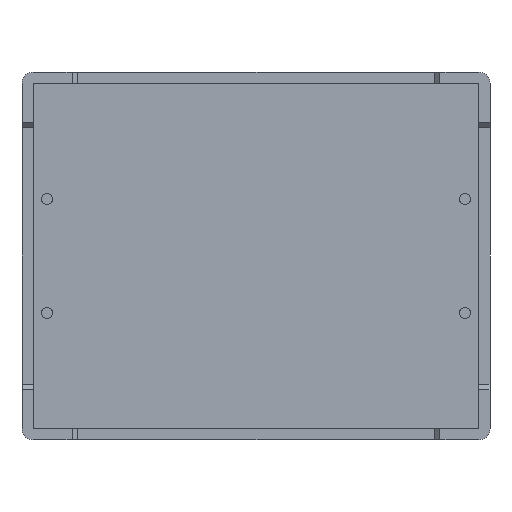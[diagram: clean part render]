
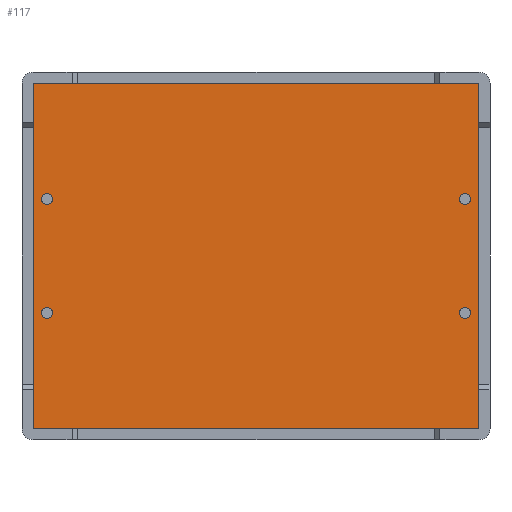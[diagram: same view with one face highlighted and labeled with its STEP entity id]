
A CAD part, front view. The second image highlights one B-rep face of the part: STEP entity #117.
In plain terms, the highlighted planar face has unit normal (0, -1, 0).
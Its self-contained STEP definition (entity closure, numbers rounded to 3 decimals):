
#8 = AXIS2_PLACEMENT_3D ( 'NONE', #4185, #4074, #4048 ) ;
#40 = DIRECTION ( 'NONE',  ( 0., -1., 0. ) ) ;
#55 = EDGE_CURVE ( 'NONE', #2542, #2444, #792, .T. ) ;
#108 = EDGE_CURVE ( 'NONE', #2647, #2434, #479, .T. ) ;
#117 = ADVANCED_FACE ( 'NONE', ( #431, #484, #427, #423, #419 ), #1413, .T. ) ;
#132 = DIRECTION ( 'NONE',  ( 0., -1., 0. ) ) ;
#175 = EDGE_CURVE ( 'NONE', #2857, #2591, #4486, .T. ) ;
#219 = EDGE_CURVE ( 'NONE', #3059, #1966, #3805, .T. ) ;
#249 = EDGE_CURVE ( 'NONE', #3536, #3702, #3254, .T. ) ;
#255 = EDGE_CURVE ( 'NONE', #3768, #3634, #3123, .T. ) ;
#261 = EDGE_CURVE ( 'NONE', #3411, #3037, #2965, .T. ) ;
#277 = EDGE_CURVE ( 'NONE', #3808, #3295, #2730, .T. ) ;
#279 = ORIENTED_EDGE ( 'NONE', *, *, #249, .F. ) ;
#285 = EDGE_CURVE ( 'NONE', #1966, #2857, #2328, .T. ) ;
#290 = EDGE_CURVE ( 'NONE', #2591, #2647, #2237, .T. ) ;
#299 = EDGE_CURVE ( 'NONE', #2434, #2542, #2101, .T. ) ;
#301 = EDGE_CURVE ( 'NONE', #2444, #3059, #2015, .T. ) ;
#332 = ORIENTED_EDGE ( 'NONE', *, *, #3658, .F. ) ;
#339 = ORIENTED_EDGE ( 'NONE', *, *, #255, .F. ) ;
#351 = ORIENTED_EDGE ( 'NONE', *, *, #4470, .F. ) ;
#365 = ORIENTED_EDGE ( 'NONE', *, *, #261, .F. ) ;
#372 = CARTESIAN_POINT ( 'NONE',  ( 18.75, 1., 5.1 ) ) ;
#397 = ORIENTED_EDGE ( 'NONE', *, *, #893, .F. ) ;
#403 = ORIENTED_EDGE ( 'NONE', *, *, #277, .F. ) ;
#416 = ORIENTED_EDGE ( 'NONE', *, *, #1346, .F. ) ;
#419 = FACE_OUTER_BOUND ( 'NONE', #1344, .T. ) ;
#421 = ORIENTED_EDGE ( 'NONE', *, *, #219, .T. ) ;
#423 = FACE_BOUND ( 'NONE', #1879, .T. ) ;
#425 = ORIENTED_EDGE ( 'NONE', *, *, #285, .T. ) ;
#427 = FACE_BOUND ( 'NONE', #1544, .T. ) ;
#431 = FACE_BOUND ( 'NONE', #1495, .T. ) ;
#436 = CARTESIAN_POINT ( 'NONE',  ( -19.9, 1., -15.5 ) ) ;
#451 = DIRECTION ( 'NONE',  ( 0., 0., -1. ) ) ;
#455 = ORIENTED_EDGE ( 'NONE', *, *, #175, .T. ) ;
#465 = ORIENTED_EDGE ( 'NONE', *, *, #290, .T. ) ;
#467 = CARTESIAN_POINT ( 'NONE',  ( 19.9, 1., 15.4 ) ) ;
#468 = CARTESIAN_POINT ( 'NONE',  ( -18.75, 1., 4.6 ) ) ;
#475 = ORIENTED_EDGE ( 'NONE', *, *, #108, .T. ) ;
#477 = DIRECTION ( 'NONE',  ( 0., -1., 0. ) ) ;
#479 = LINE ( 'NONE', #1637, #581 ) ;
#482 = ORIENTED_EDGE ( 'NONE', *, *, #299, .T. ) ;
#484 = FACE_BOUND ( 'NONE', #1755, .T. ) ;
#511 = AXIS2_PLACEMENT_3D ( 'NONE', #467, #40, #1236 ) ;
#515 = ORIENTED_EDGE ( 'NONE', *, *, #55, .T. ) ;
#525 = ORIENTED_EDGE ( 'NONE', *, *, #301, .T. ) ;
#562 = DIRECTION ( 'NONE',  ( 0., 0., -1. ) ) ;
#581 = VECTOR ( 'NONE', #1631, 1000. ) ;
#638 = DIRECTION ( 'NONE',  ( 0., -1., 0. ) ) ;
#792 = LINE ( 'NONE', #2930, #811 ) ;
#811 = VECTOR ( 'NONE', #2889, 1000. ) ;
#867 = DIRECTION ( 'NONE',  ( 0., 0., -1. ) ) ;
#893 = EDGE_CURVE ( 'NONE', #3037, #3411, #4334, .T. ) ;
#937 = DIRECTION ( 'NONE',  ( 0., -1., 0. ) ) ;
#967 = CIRCLE ( 'NONE', #3743, 0.5 ) ;
#1057 = CARTESIAN_POINT ( 'NONE',  ( 19.9, 1., -15.4 ) ) ;
#1071 = AXIS2_PLACEMENT_3D ( 'NONE', #3917, #132, #3546 ) ;
#1217 = CARTESIAN_POINT ( 'NONE',  ( 19.9, 1., -15.5 ) ) ;
#1236 = DIRECTION ( 'NONE',  ( 0., 0., -1. ) ) ;
#1290 = CARTESIAN_POINT ( 'NONE',  ( 18.75, 1., 4.6 ) ) ;
#1344 = EDGE_LOOP ( 'NONE', ( #421, #425, #455, #465, #475, #482, #515, #525 ) ) ;
#1346 = EDGE_CURVE ( 'NONE', #3295, #3808, #1441, .T. ) ;
#1352 = DIRECTION ( 'NONE',  ( 0., 0., -1. ) ) ;
#1365 = DIRECTION ( 'NONE',  ( 0., 0., -1. ) ) ;
#1379 = DIRECTION ( 'NONE',  ( 0., 0., -1. ) ) ;
#1382 = DIRECTION ( 'NONE',  ( 0., -1., 0. ) ) ;
#1386 = DIRECTION ( 'NONE',  ( 0., -1., 0. ) ) ;
#1393 = DIRECTION ( 'NONE',  ( 0., -1., 0. ) ) ;
#1400 = CARTESIAN_POINT ( 'NONE',  ( 0., 1., 0. ) ) ;
#1413 = PLANE ( 'NONE',  #1695 ) ;
#1441 = CIRCLE ( 'NONE', #4111, 0.5 ) ;
#1448 = CARTESIAN_POINT ( 'NONE',  ( -18.75, 1., 5.1 ) ) ;
#1455 = CARTESIAN_POINT ( 'NONE',  ( -19.9, 1., -15.4 ) ) ;
#1495 = EDGE_LOOP ( 'NONE', ( #279, #332 ) ) ;
#1531 = CARTESIAN_POINT ( 'NONE',  ( -20., 1., -15.5 ) ) ;
#1544 = EDGE_LOOP ( 'NONE', ( #365, #397 ) ) ;
#1545 = CIRCLE ( 'NONE', #3086, 0.5 ) ;
#1585 = DIRECTION ( 'NONE',  ( 0., -1., 0. ) ) ;
#1631 = DIRECTION ( 'NONE',  ( 0., 0., 1. ) ) ;
#1637 = CARTESIAN_POINT ( 'NONE',  ( 20., 1., -15.5 ) ) ;
#1649 = CARTESIAN_POINT ( 'NONE',  ( -20., 1., 15.4 ) ) ;
#1684 = CARTESIAN_POINT ( 'NONE',  ( -18.75, 1., -4.6 ) ) ;
#1695 = AXIS2_PLACEMENT_3D ( 'NONE', #1400, #1386, #1379 ) ;
#1755 = EDGE_LOOP ( 'NONE', ( #339, #351 ) ) ;
#1879 = EDGE_LOOP ( 'NONE', ( #403, #416 ) ) ;
#1966 = VERTEX_POINT ( 'NONE', #2837 ) ;
#2015 = CIRCLE ( 'NONE', #1071, 0.1 ) ;
#2101 = CIRCLE ( 'NONE', #511, 0.1 ) ;
#2139 = AXIS2_PLACEMENT_3D ( 'NONE', #2392, #2295, #2224 ) ;
#2224 = DIRECTION ( 'NONE',  ( 0., 0., -1. ) ) ;
#2237 = CIRCLE ( 'NONE', #3861, 0.1 ) ;
#2284 = CARTESIAN_POINT ( 'NONE',  ( 19.9, 1., 15.5 ) ) ;
#2295 = DIRECTION ( 'NONE',  ( 0., -1., 0. ) ) ;
#2304 = CARTESIAN_POINT ( 'NONE',  ( 20., 1., -15.4 ) ) ;
#2328 = CIRCLE ( 'NONE', #3464, 0.1 ) ;
#2392 = CARTESIAN_POINT ( 'NONE',  ( -18.75, 1., -5.1 ) ) ;
#2394 = CARTESIAN_POINT ( 'NONE',  ( 18.75, 1., -4.6 ) ) ;
#2434 = VERTEX_POINT ( 'NONE', #2604 ) ;
#2444 = VERTEX_POINT ( 'NONE', #4135 ) ;
#2458 = CARTESIAN_POINT ( 'NONE',  ( -18.75, 1., -5.6 ) ) ;
#2542 = VERTEX_POINT ( 'NONE', #2284 ) ;
#2591 = VERTEX_POINT ( 'NONE', #1217 ) ;
#2604 = CARTESIAN_POINT ( 'NONE',  ( 20., 1., 15.4 ) ) ;
#2647 = VERTEX_POINT ( 'NONE', #2304 ) ;
#2702 = DIRECTION ( 'NONE',  ( 0., -1., 0. ) ) ;
#2727 = CARTESIAN_POINT ( 'NONE',  ( 18.75, 1., -5.1 ) ) ;
#2730 = CIRCLE ( 'NONE', #2139, 0.5 ) ;
#2837 = CARTESIAN_POINT ( 'NONE',  ( -20., 1., -15.4 ) ) ;
#2857 = VERTEX_POINT ( 'NONE', #436 ) ;
#2889 = DIRECTION ( 'NONE',  ( -1., 0., 0. ) ) ;
#2930 = CARTESIAN_POINT ( 'NONE',  ( 20., 1., 15.5 ) ) ;
#2965 = CIRCLE ( 'NONE', #8, 0.5 ) ;
#3037 = VERTEX_POINT ( 'NONE', #468 ) ;
#3052 = DIRECTION ( 'NONE',  ( 0., 0., -1. ) ) ;
#3059 = VERTEX_POINT ( 'NONE', #1649 ) ;
#3086 = AXIS2_PLACEMENT_3D ( 'NONE', #4479, #2702, #451 ) ;
#3123 = CIRCLE ( 'NONE', #3941, 0.5 ) ;
#3136 = AXIS2_PLACEMENT_3D ( 'NONE', #372, #638, #562 ) ;
#3254 = CIRCLE ( 'NONE', #3136, 0.5 ) ;
#3291 = DIRECTION ( 'NONE',  ( 0., 0., -1. ) ) ;
#3295 = VERTEX_POINT ( 'NONE', #2458 ) ;
#3318 = AXIS2_PLACEMENT_3D ( 'NONE', #1448, #1382, #1352 ) ;
#3354 = CARTESIAN_POINT ( 'NONE',  ( -20., 1., 15.5 ) ) ;
#3411 = VERTEX_POINT ( 'NONE', #4061 ) ;
#3464 = AXIS2_PLACEMENT_3D ( 'NONE', #1455, #1393, #1365 ) ;
#3499 = CARTESIAN_POINT ( 'NONE',  ( 18.75, 1., 5.6 ) ) ;
#3536 = VERTEX_POINT ( 'NONE', #3499 ) ;
#3546 = DIRECTION ( 'NONE',  ( 0., 0., -1. ) ) ;
#3567 = CARTESIAN_POINT ( 'NONE',  ( -18.75, 1., -5.1 ) ) ;
#3600 = CARTESIAN_POINT ( 'NONE',  ( 18.75, 1., -5.6 ) ) ;
#3634 = VERTEX_POINT ( 'NONE', #3600 ) ;
#3658 = EDGE_CURVE ( 'NONE', #3702, #3536, #1545, .T. ) ;
#3702 = VERTEX_POINT ( 'NONE', #1290 ) ;
#3743 = AXIS2_PLACEMENT_3D ( 'NONE', #2727, #477, #3052 ) ;
#3768 = VERTEX_POINT ( 'NONE', #2394 ) ;
#3805 = LINE ( 'NONE', #3354, #3952 ) ;
#3808 = VERTEX_POINT ( 'NONE', #1684 ) ;
#3861 = AXIS2_PLACEMENT_3D ( 'NONE', #1057, #937, #867 ) ;
#3872 = DIRECTION ( 'NONE',  ( 0., 0., -1. ) ) ;
#3917 = CARTESIAN_POINT ( 'NONE',  ( -19.9, 1., 15.4 ) ) ;
#3941 = AXIS2_PLACEMENT_3D ( 'NONE', #4414, #4375, #4360 ) ;
#3952 = VECTOR ( 'NONE', #3291, 1000. ) ;
#4048 = DIRECTION ( 'NONE',  ( 0., 0., -1. ) ) ;
#4061 = CARTESIAN_POINT ( 'NONE',  ( -18.75, 1., 5.6 ) ) ;
#4074 = DIRECTION ( 'NONE',  ( 0., -1., 0. ) ) ;
#4111 = AXIS2_PLACEMENT_3D ( 'NONE', #3567, #1585, #3872 ) ;
#4135 = CARTESIAN_POINT ( 'NONE',  ( -19.9, 1., 15.5 ) ) ;
#4185 = CARTESIAN_POINT ( 'NONE',  ( -18.75, 1., 5.1 ) ) ;
#4263 = DIRECTION ( 'NONE',  ( 1., 0., 0. ) ) ;
#4334 = CIRCLE ( 'NONE', #3318, 0.5 ) ;
#4360 = DIRECTION ( 'NONE',  ( 0., 0., -1. ) ) ;
#4375 = DIRECTION ( 'NONE',  ( 0., -1., 0. ) ) ;
#4414 = CARTESIAN_POINT ( 'NONE',  ( 18.75, 1., -5.1 ) ) ;
#4468 = VECTOR ( 'NONE', #4263, 1000. ) ;
#4470 = EDGE_CURVE ( 'NONE', #3634, #3768, #967, .T. ) ;
#4479 = CARTESIAN_POINT ( 'NONE',  ( 18.75, 1., 5.1 ) ) ;
#4486 = LINE ( 'NONE', #1531, #4468 ) ;
